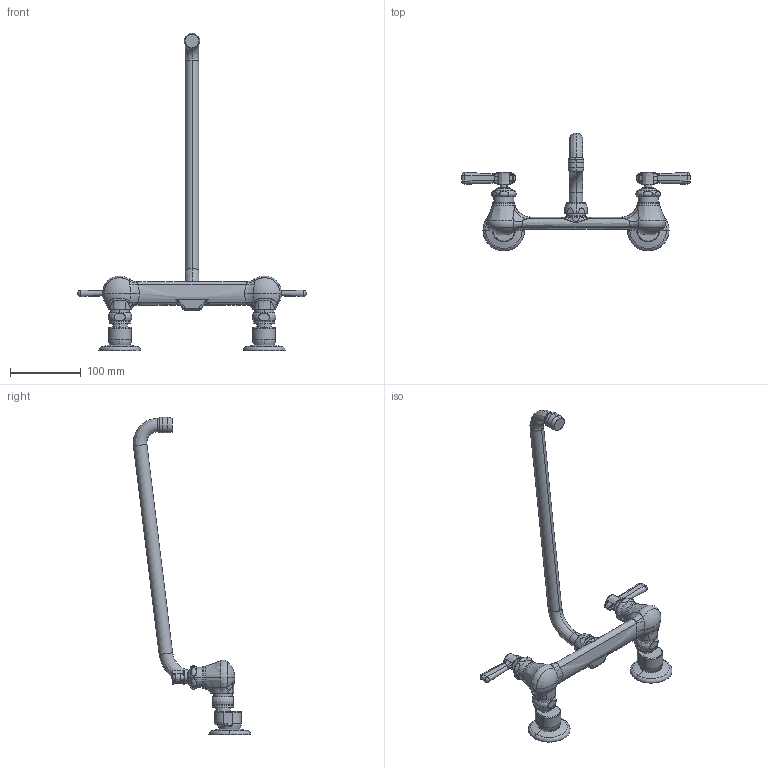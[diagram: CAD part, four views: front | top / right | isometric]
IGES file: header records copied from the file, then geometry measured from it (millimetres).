
Start section:  PTC IGES file: 540-ldl15_fitting_sw0001.igs
Global section: file name: 540-ldl15_fitting_sw0001.igs; native system: Pro/ENGINEER by Parametric Technology Corporation; preprocessor: 2010230; author: jrodriguez; organization: Unknown; date: 20110908.085332; units: inch
Bounding box: 322.07 x 165.36 x 447.26 mm (x, y, z)
Surface area: 103391.6 mm2 (no closed solid volume)
Topology: 0 solids, 0 shells, 501 faces, 3447 edges, 4566 vertices
Faces by surface type: bspline 334, revolution 167
